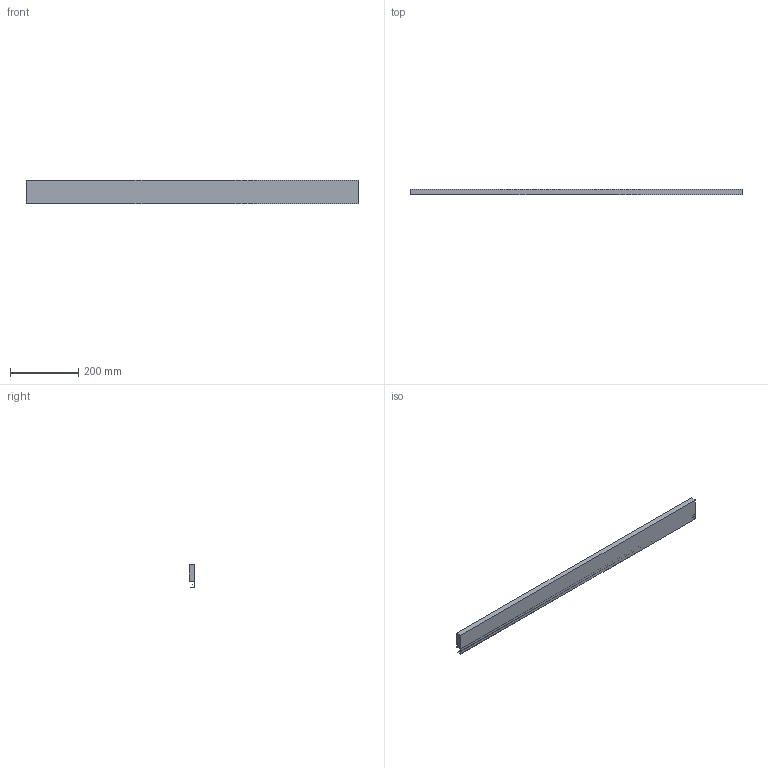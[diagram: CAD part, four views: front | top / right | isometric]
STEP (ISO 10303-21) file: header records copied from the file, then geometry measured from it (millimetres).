
FILE_DESCRIPTION (( 'STEP AP214' ), '1' );
FILE_NAME ('Innenschub-Blendenprofil_KAB1100_S19.step', '2010-09-23T12:27:13', ( 'grass' ), ( '' ), 'SwSTEP 2.0', 'SolidWorks 2010', '' );
FILE_SCHEMA (( 'AUTOMOTIVE_DESIGN' ));
Length unit declared in the file: millimetre
Products named in the file (1): Innenschub-Blendenprofil_KAB1100_S19
Bounding box: 971 x 15.9 x 67.6 mm (x, y, z)
Volume: 805134.8 mm3; surface area: 192203.2 mm2
Topology: 1 solids, 1 shells, 17 faces, 42 edges, 28 vertices
Faces by surface type: plane 15, cylinder 2
Entity records: 534 total; most frequent: CARTESIAN_POINT 88, ORIENTED_EDGE 84, DIRECTION 82, EDGE_CURVE 42, LINE 38, VECTOR 38, VERTEX_POINT 28, AXIS2_PLACEMENT_3D 22
